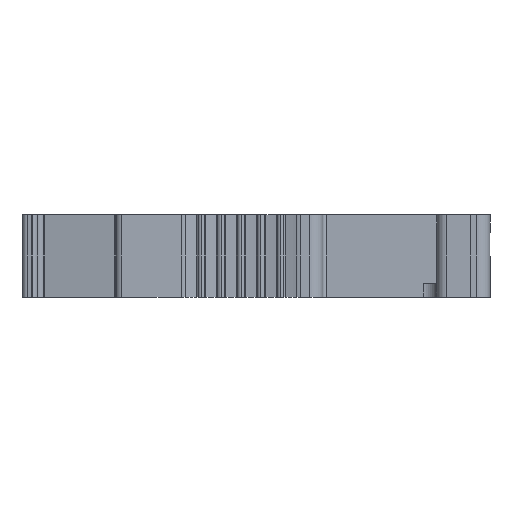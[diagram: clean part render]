
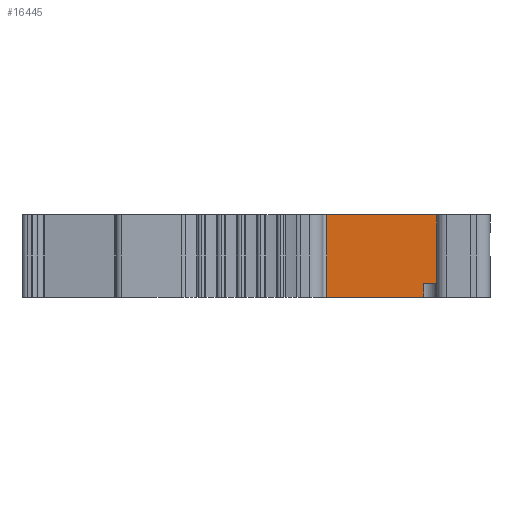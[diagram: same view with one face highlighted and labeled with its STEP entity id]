
A CAD part, left-side view. The second image highlights one B-rep face of the part: STEP entity #16445.
In plain terms, the highlighted planar face has unit normal (-1, 0, 0).
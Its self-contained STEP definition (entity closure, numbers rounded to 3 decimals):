
#2852=DIRECTION('',(0.,0.,-1.));
#2853=VECTOR('',#2852,6.2);
#2854=CARTESIAN_POINT('',(3.094,11.8,0.));
#2855=LINE('',#2854,#2853);
#2860=DIRECTION('',(0.,-1.,0.));
#2861=VECTOR('',#2860,10.8);
#2862=CARTESIAN_POINT('',(3.094,11.8,0.));
#2863=LINE('',#2862,#2861);
#2864=DIRECTION('',(0.,1.,0.));
#2865=VECTOR('',#2864,3.5);
#2866=CARTESIAN_POINT('',(3.094,1.,-5.2));
#2867=LINE('',#2866,#2865);
#2868=DIRECTION('',(0.,1.,0.));
#2869=VECTOR('',#2868,7.3);
#2870=CARTESIAN_POINT('',(3.094,4.5,-6.2));
#2871=LINE('',#2870,#2869);
#2876=DIRECTION('',(0.,0.,1.));
#2877=VECTOR('',#2876,5.2);
#2878=CARTESIAN_POINT('',(3.094,1.,-5.2));
#2879=LINE('',#2878,#2877);
#5177=DIRECTION('',(0.,0.,1.));
#5178=VECTOR('',#5177,1.);
#5179=CARTESIAN_POINT('',(3.094,4.5,-6.2));
#5180=LINE('',#5179,#5178);
#10894=CARTESIAN_POINT('',(3.094,1.,0.));
#10895=VERTEX_POINT('',#10894);
#10896=CARTESIAN_POINT('',(3.094,11.8,0.));
#10897=VERTEX_POINT('',#10896);
#11614=CARTESIAN_POINT('',(3.094,11.8,-6.2));
#11615=VERTEX_POINT('',#11614);
#11616=CARTESIAN_POINT('',(3.094,4.5,-6.2));
#11617=VERTEX_POINT('',#11616);
#12077=CARTESIAN_POINT('',(3.094,4.5,-5.2));
#12078=VERTEX_POINT('',#12077);
#12079=CARTESIAN_POINT('',(3.094,1.,-5.2));
#12080=VERTEX_POINT('',#12079);
#16429=CARTESIAN_POINT('',(3.094,11.8,0.));
#16430=DIRECTION('',(-1.,0.,0.));
#16431=DIRECTION('',(0.,1.,0.));
#16432=AXIS2_PLACEMENT_3D('',#16429,#16430,#16431);
#16433=PLANE('',#16432);
#16434=ORIENTED_EDGE('',*,*,#13818,.T.);
#16436=ORIENTED_EDGE('',*,*,#16435,.F.);
#16438=ORIENTED_EDGE('',*,*,#16437,.T.);
#16440=ORIENTED_EDGE('',*,*,#16439,.F.);
#16441=ORIENTED_EDGE('',*,*,#15545,.T.);
#16442=ORIENTED_EDGE('',*,*,#16422,.F.);
#16443=EDGE_LOOP('',(#16434,#16436,#16438,#16440,#16441,#16442));
#16444=FACE_OUTER_BOUND('',#16443,.F.);
#16445=ADVANCED_FACE('',(#16444),#16433,.T.);
#13818=EDGE_CURVE('',#10897,#10895,#2863,.T.);
#15545=EDGE_CURVE('',#11617,#11615,#2871,.T.);
#16422=EDGE_CURVE('',#10897,#11615,#2855,.T.);
#16435=EDGE_CURVE('',#12080,#10895,#2879,.T.);
#16437=EDGE_CURVE('',#12080,#12078,#2867,.T.);
#16439=EDGE_CURVE('',#11617,#12078,#5180,.T.);
